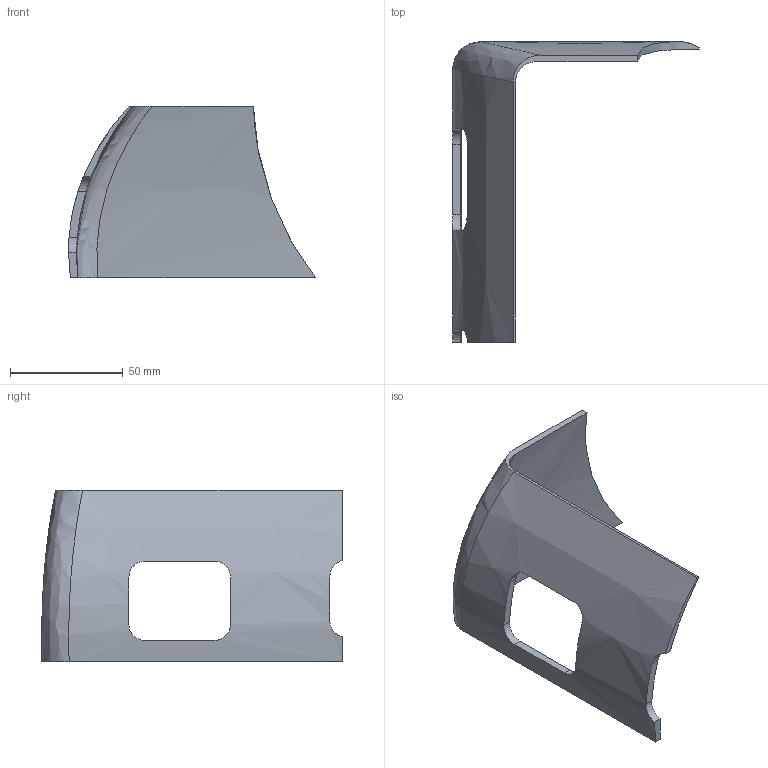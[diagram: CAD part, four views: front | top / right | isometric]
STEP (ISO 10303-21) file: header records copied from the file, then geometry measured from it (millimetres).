
FILE_DESCRIPTION(('Open CASCADE Model'),'2;1');
FILE_NAME('Open CASCADE Shape Model','2026-11-03T04:29:34',('Author'),( 'Open CASCADE'),'Open CASCADE STEP processor 7.8','Open CASCADE 7.8' ,'Unknown');
FILE_SCHEMA(('AUTOMOTIVE_DESIGN { 1 0 10303 214 1 1 1 1 }'));
Length unit declared in the file: millimetre
Products named in the file (1): Open CASCADE STEP translator 7.8 24
Bounding box: 109.3 x 133.14 x 76 mm (x, y, z)
Volume: 44724.5 mm3; surface area: 31813.3 mm2
Topology: 1 solids, 1 shells, 23 faces, 63 edges, 42 vertices
Faces by surface type: plane 9, bspline 7, cylinder 7
Entity records: 3378 total; most frequent: CARTESIAN_POINT 2360, B_SPLINE_CURVE_WITH_KNOTS 128, ORIENTED_EDGE 126, PCURVE 126, DEFINITIONAL_REPRESENTATION 126, DIRECTION 95, EDGE_CURVE 63, SURFACE_CURVE 63
